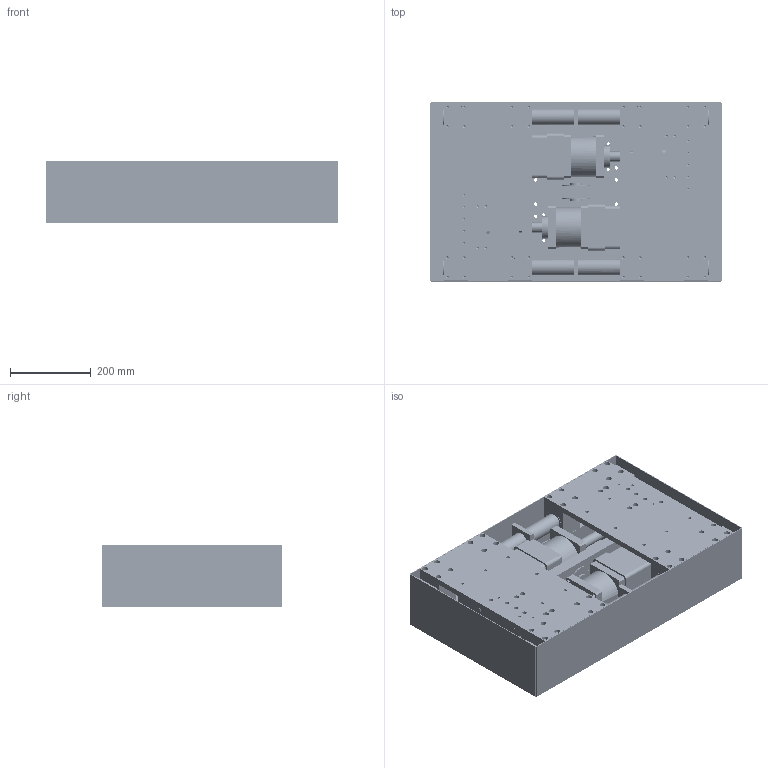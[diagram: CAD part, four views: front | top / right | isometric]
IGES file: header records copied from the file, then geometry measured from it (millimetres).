
Start section: Comment
Global section: file name: GSA 100.igs; native system:  By UGS Corp.; preprocessor: XPlus GENERIC/IGES 3.0; author: Author; organization: Title; date: 20100119.134222; units: millimetre
Bounding box: 724 x 444 x 152 mm (x, y, z)
Surface area: 3648297.1 mm2 (no closed solid volume)
Topology: 0 solids, 0 shells, 2238 faces, 11516 edges, 11264 vertices
Faces by surface type: bspline 2238
